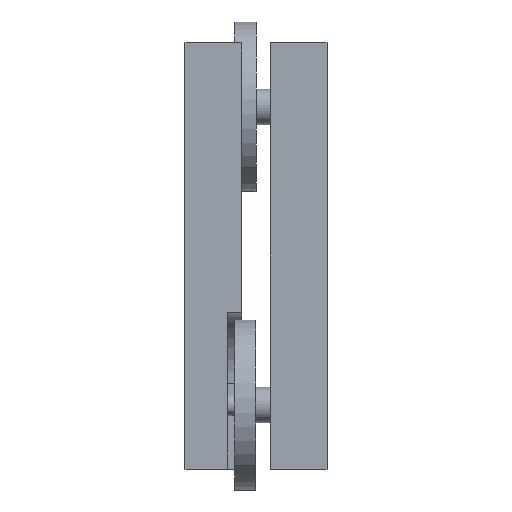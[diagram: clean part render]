
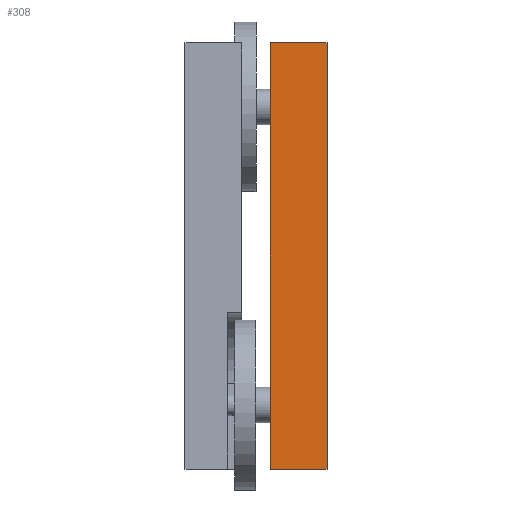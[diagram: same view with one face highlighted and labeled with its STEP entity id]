
A CAD part, left-side view. The second image highlights one B-rep face of the part: STEP entity #308.
In plain terms, the highlighted planar face has unit normal (-1, 0, 0).
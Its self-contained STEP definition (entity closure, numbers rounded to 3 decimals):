
#208 = ORIENTED_EDGE ( 'NONE', *, *, #209, .F. ) ;
#209 = EDGE_CURVE ( 'NONE', #400, #399, #1611, .T. ) ;
#210 = ORIENTED_EDGE ( 'NONE', *, *, #211, .T. ) ;
#211 = EDGE_CURVE ( 'NONE', #400, #395, #1521, .T. ) ;
#308 = ADVANCED_FACE ( 'NONE', ( #1829 ), #1827, .F. ) ;
#309 = ORIENTED_EDGE ( 'NONE', *, *, #394, .T. ) ;
#393 = EDGE_LOOP ( 'NONE', ( #309, #397, #208, #210 ) ) ;
#394 = EDGE_CURVE ( 'NONE', #395, #396, #1972, .T. ) ;
#395 = VERTEX_POINT ( 'NONE', #1969 ) ;
#396 = VERTEX_POINT ( 'NONE', #1968 ) ;
#397 = ORIENTED_EDGE ( 'NONE', *, *, #398, .F. ) ;
#398 = EDGE_CURVE ( 'NONE', #399, #396, #1967, .T. ) ;
#399 = VERTEX_POINT ( 'NONE', #1921 ) ;
#400 = VERTEX_POINT ( 'NONE', #1920 ) ;
#1518 = DIRECTION ( 'NONE',  ( 0., -1., 0. ) ) ;
#1519 = VECTOR ( 'NONE', #1518, 1000. ) ;
#1520 = CARTESIAN_POINT ( 'NONE',  ( -30., 8., -30. ) ) ;
#1521 = LINE ( 'NONE', #1520, #1519 ) ;
#1522 = DIRECTION ( 'NONE',  ( 0., 0., 1. ) ) ;
#1523 = VECTOR ( 'NONE', #1522, 1000. ) ;
#1524 = CARTESIAN_POINT ( 'NONE',  ( -30., 8., -30. ) ) ;
#1611 = LINE ( 'NONE', #1524, #1523 ) ;
#1823 = DIRECTION ( 'NONE',  ( 0., -1., 0. ) ) ;
#1824 = DIRECTION ( 'NONE',  ( 1., 0., 0. ) ) ;
#1825 = CARTESIAN_POINT ( 'NONE',  ( -30., 8., -30. ) ) ;
#1826 = AXIS2_PLACEMENT_3D ( 'NONE', #1825, #1824, #1823 ) ;
#1827 = PLANE ( 'NONE',  #1826 ) ;
#1829 = FACE_OUTER_BOUND ( 'NONE', #393, .T. ) ;
#1920 = CARTESIAN_POINT ( 'NONE',  ( -30., 8., -30. ) ) ;
#1921 = CARTESIAN_POINT ( 'NONE',  ( -30., 8., 30. ) ) ;
#1922 = VECTOR ( 'NONE', #1965, 1000. ) ;
#1965 = DIRECTION ( 'NONE',  ( 0., -1., 0. ) ) ;
#1966 = CARTESIAN_POINT ( 'NONE',  ( -30., 8., 30. ) ) ;
#1967 = LINE ( 'NONE', #1966, #1922 ) ;
#1968 = CARTESIAN_POINT ( 'NONE',  ( -30., 0., 30. ) ) ;
#1969 = CARTESIAN_POINT ( 'NONE',  ( -30., 0., -30. ) ) ;
#1971 = CARTESIAN_POINT ( 'NONE',  ( -30., 0., -30. ) ) ;
#1972 = LINE ( 'NONE', #1971, #2058 ) ;
#2057 = DIRECTION ( 'NONE',  ( 0., 0., 1. ) ) ;
#2058 = VECTOR ( 'NONE', #2057, 1000. ) ;
